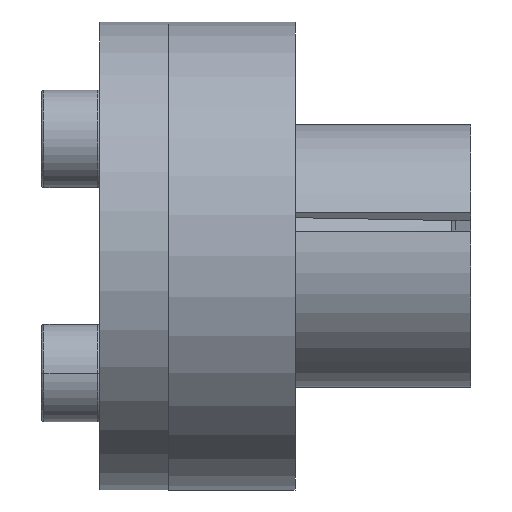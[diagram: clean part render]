
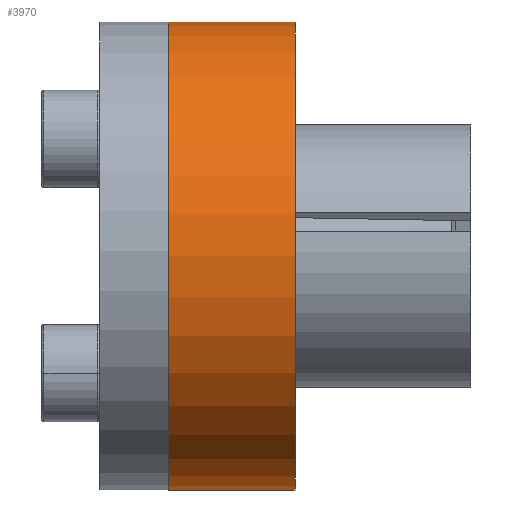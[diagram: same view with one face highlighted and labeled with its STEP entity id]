
A CAD part, front view. The second image highlights one B-rep face of the part: STEP entity #3970.
In plain terms, the highlighted cylindrical face has radius 24 mm (diameter 48 mm), a partial arc.
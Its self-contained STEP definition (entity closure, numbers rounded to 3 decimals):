
#36 = DIRECTION ( 'NONE',  ( -1., 0., 0. ) ) ;
#50 = EDGE_CURVE ( 'NONE', #3834, #2550, #2446, .T. ) ;
#226 = ORIENTED_EDGE ( 'NONE', *, *, #50, .T. ) ;
#284 = DIRECTION ( 'NONE',  ( 0., 0., 1. ) ) ;
#692 = FACE_OUTER_BOUND ( 'NONE', #3797, .T. ) ;
#807 = LINE ( 'NONE', #3533, #3218 ) ;
#943 = DIRECTION ( 'NONE',  ( -1., 0., 0. ) ) ;
#962 = CIRCLE ( 'NONE', #1862, 24. ) ;
#1371 = DIRECTION ( 'NONE',  ( 0., 0., 1. ) ) ;
#1622 = VECTOR ( 'NONE', #2354, 1000. ) ;
#1862 = AXIS2_PLACEMENT_3D ( 'NONE', #2554, #36, #1371 ) ;
#1942 = CARTESIAN_POINT ( 'NONE',  ( -11., 0., 24. ) ) ;
#2062 = EDGE_CURVE ( 'NONE', #3634, #3834, #2132, .T. ) ;
#2132 = CIRCLE ( 'NONE', #3072, 24. ) ;
#2204 = EDGE_CURVE ( 'NONE', #3634, #3819, #807, .T. ) ;
#2296 = CARTESIAN_POINT ( 'NONE',  ( -18., 0., 24. ) ) ;
#2354 = DIRECTION ( 'NONE',  ( -1., 0., 0. ) ) ;
#2394 = EDGE_CURVE ( 'NONE', #3819, #2550, #962, .T. ) ;
#2446 = LINE ( 'NONE', #2296, #1622 ) ;
#2550 = VERTEX_POINT ( 'NONE', #1942 ) ;
#2554 = CARTESIAN_POINT ( 'NONE',  ( -11., 0., 0. ) ) ;
#2601 = ORIENTED_EDGE ( 'NONE', *, *, #2062, .T. ) ;
#2850 = DIRECTION ( 'NONE',  ( 0., 0., 1. ) ) ;
#2863 = DIRECTION ( 'NONE',  ( -1., 0., 0. ) ) ;
#2896 = CARTESIAN_POINT ( 'NONE',  ( 2., 0., -24. ) ) ;
#2916 = CARTESIAN_POINT ( 'NONE',  ( 2., 0., 0. ) ) ;
#2979 = CARTESIAN_POINT ( 'NONE',  ( -11., 0., -24. ) ) ;
#2990 = CARTESIAN_POINT ( 'NONE',  ( 2., 0., 24. ) ) ;
#3072 = AXIS2_PLACEMENT_3D ( 'NONE', #2916, #2863, #2850 ) ;
#3218 = VECTOR ( 'NONE', #3299, 1000. ) ;
#3287 = ORIENTED_EDGE ( 'NONE', *, *, #2204, .F. ) ;
#3299 = DIRECTION ( 'NONE',  ( -1., 0., 0. ) ) ;
#3382 = ORIENTED_EDGE ( 'NONE', *, *, #2394, .F. ) ;
#3486 = AXIS2_PLACEMENT_3D ( 'NONE', #4023, #943, #284 ) ;
#3533 = CARTESIAN_POINT ( 'NONE',  ( -18., 0., -24. ) ) ;
#3634 = VERTEX_POINT ( 'NONE', #2896 ) ;
#3797 = EDGE_LOOP ( 'NONE', ( #3287, #2601, #226, #3382 ) ) ;
#3806 = CYLINDRICAL_SURFACE ( 'NONE', #3486, 24. ) ;
#3819 = VERTEX_POINT ( 'NONE', #2979 ) ;
#3834 = VERTEX_POINT ( 'NONE', #2990 ) ;
#3970 = ADVANCED_FACE ( 'NONE', ( #692 ), #3806, .T. ) ;
#4023 = CARTESIAN_POINT ( 'NONE',  ( -18., 0., 0. ) ) ;
